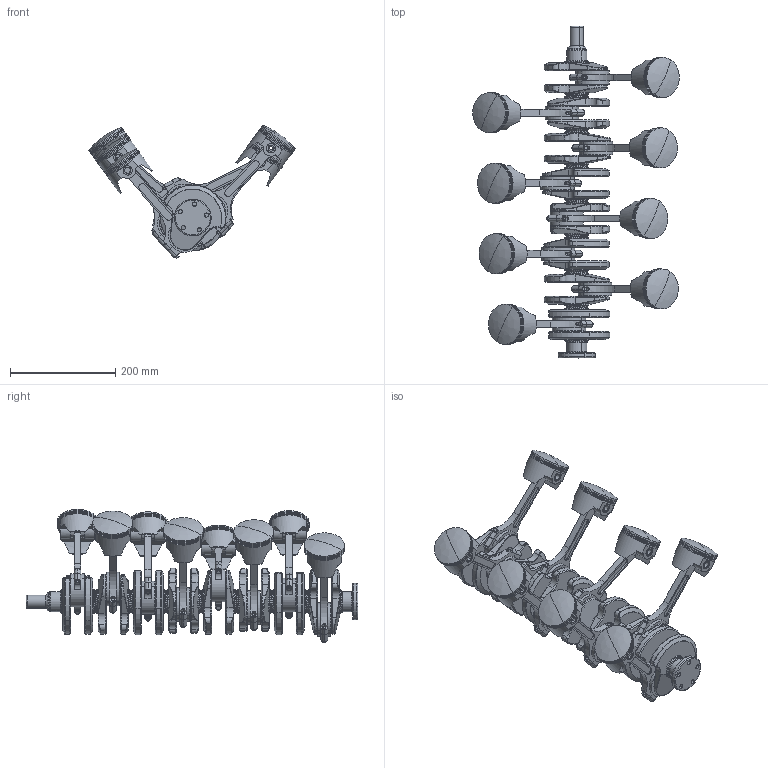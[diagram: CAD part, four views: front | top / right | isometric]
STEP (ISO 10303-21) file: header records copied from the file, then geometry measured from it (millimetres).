
FILE_DESCRIPTION(('CATIA V5 STEP Exchange'),'2;1');
FILE_NAME('C:\Documents and Settings\ABHIJEET\Desktop\main assembly1.stp','2011-10-19T17:04:22+00:00',('none'),('none'),'CATIA Version 5 Release 19 GA (IN-10)','CATIA V5 STEP AP203','none');
FILE_SCHEMA(('CONFIG_CONTROL_DESIGN'));
Length unit declared in the file: millimetre
Products named in the file (3): main assembly; piston rod assembly; piston end  assembly
Assembly tree (31 placements, depth 3):
  main assembly
    #56  x8
    #4444
    piston rod assembly  x8
      #5527
      #6938
      #7619
    piston end  assembly  x8
      #8132
      #9332
Bounding box: 392.75 x 631.45 x 253.61 mm (x, y, z)
Volume: 4488674.7 mm3; surface area: 902215.9 mm2
Topology: 58 solids, 58 shells, 2258 faces, 5306 edges, 3262 vertices
Faces by surface type: cylinder 972, plane 646, torus 240, cone 176, bspline 128, sphere 64, revolution 16, extrusion 16
Entity records: 9558 total; most frequent: CARTESIAN_POINT 2714, ORIENTED_EDGE 1412, DIRECTION 1176, EDGE_CURVE 706, AXIS2_PLACEMENT_3D 639, VERTEX_POINT 435, CIRCLE 372, EDGE_LOOP 345
